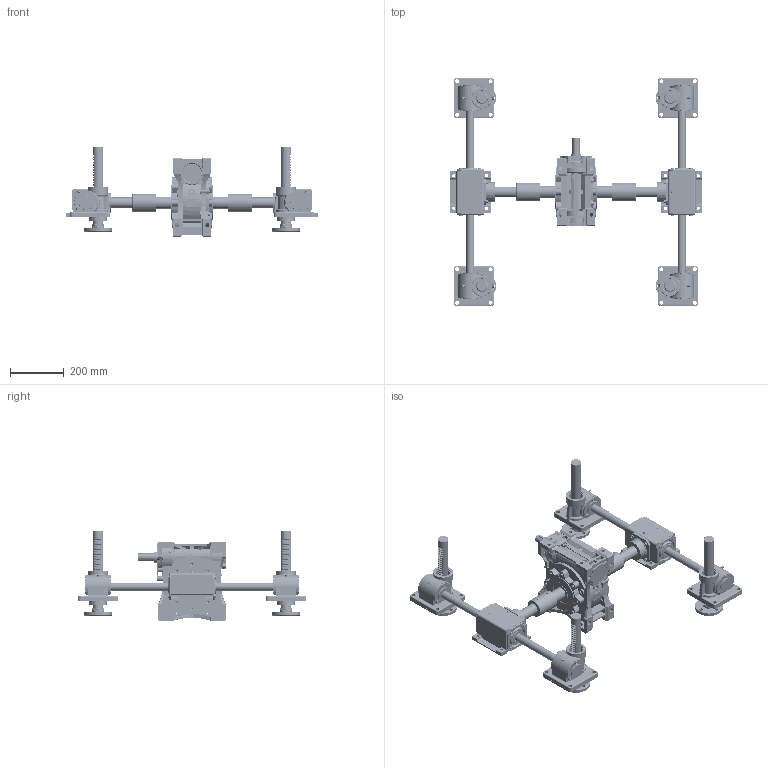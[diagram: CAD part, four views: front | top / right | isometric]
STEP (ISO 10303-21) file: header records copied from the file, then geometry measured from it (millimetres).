
FILE_DESCRIPTION(('STEP AP203'),'1');
FILE_NAME('RJ20-4SUH-700x700-350-150ST-105.stp','2022-07-07T02:02:43',(' '),(' '),'Spatial InterOp 3D',' ',' ');
FILE_SCHEMA(('CONFIG_CONTROL_DESIGN'));
Length unit declared in the file: millimetre
Products named in the file (144): RJ20-4SUH-700x700-350-150ST-105; ASSEM1; Flange.1-Part; Flange.1; Joint.1; Nut.1; Flange.2-Part; Flange.2; Joint.2; Nut.2; Flange.3-Part; Flange.3; Joint.3; Nut.3; Flange.4-Part; Flange.4; Joint.4; Nut.4; Body.1-Part; Nipple; Bolt; Bearing Cover Open.1(RJ20); Bearing Cover Close.1(RJ20); Gear Box.1(RJ20); RJ05-4SCJ-610X600-100ST_CAP; LABEL-B.1; SUNIL __; 파트1; Body.2-Part; Bearing Cover Open.2(RJ20); Bearing Cover Close.2(RJ20); Gear Box.2(RJ20); Body.3-Part; Bearing Cover Open.3(RJ20); Bearing Cover Close.3(RJ20); Gear Box.3(RJ20); Body.4-Part; Bearing Cover Open.4(RJ20); Bearing Cover Close.4(RJ20); Gear Box.4(RJ20)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
Assembly tree (144 placements, depth 7):
  RJ20-4SUH-700x700-350-150ST-105
    ASSEM1
    (unnamed)
    (unnamed)
    (unnamed)
    Flange.1-Part
      Flange.1
      Joint.1
      Nut.1
    Flange.2-Part
      Flange.2
      Joint.2
      Nut.2
    Flange.3-Part
      Flange.3
      Joint.3
      Nut.3
    Flange.4-Part
      Flange.4
      Joint.4
      Nut.4
    Body.1-Part
      Nipple
      Bolt
      Bolt
      Bolt
      Bolt
      Bolt
      Bolt
      Bearing Cover Open.1(RJ20)
      Bearing Cover Close.1(RJ20)
      Gear Box.1(RJ20)
      SUNIL __
        RJ05-4SCJ-610X600-100ST_CAP
          LABEL-B.1
        파트1
    Body.2-Part
      Nipple
      Bolt
      Bolt
      Bolt
      Bolt
      Bolt
      Bolt
      Bearing Cover Open.2(RJ20)
      Bearing Cover Close.2(RJ20)
      Gear Box.2(RJ20)
      SUNIL __
        RJ05-4SCJ-610X600-100ST_CAP
          LABEL-B.1
        파트1
    Body.3-Part
      Nipple
      Bolt
      Bolt
      Bolt
      Bolt
      Bolt
      Bolt
      Bearing Cover Open.3(RJ20)
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Bounding box: 942 x 850 x 334.5 mm (x, y, z)
Volume: 16131455.2 mm3; surface area: 2421209.5 mm2
Topology: 177 solids, 181 shells, 16209 faces, 45165 edges, 29677 vertices
Faces by surface type: plane 13181, cylinder 1785, cone 498, torus 443, bspline 146, extrusion 82, revolution 42, sphere 32
Full cylindrical faces by diameter (mm): 3.113 x6, 6 x46, 6.6 x6, 7.45 x12, 8 x76, 8.376 x17, 8.5 x24, 9 x24, 10.5 x1, 11 x24, 12 x8, 13 x32, 14 x40, 14.5 x2, 24 x2, 28 x5, 30 x12, 30.5 x4, 32 x8, 35 x2, 40 x8, 41 x1, 42 x3, 43 x4, 44 x12, 45 x8, 46 x8, 50 x8, 52 x8, 53 x4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
Entity records: 533988 total; most frequent: CARTESIAN_POINT 115112, ORIENTED_EDGE 87582, DIRECTION 79751, EDGE_CURVE 43791, VECTOR 37651, LINE 37569, VERTEX_POINT 29351, AXIS2_PLACEMENT_3D 21029
